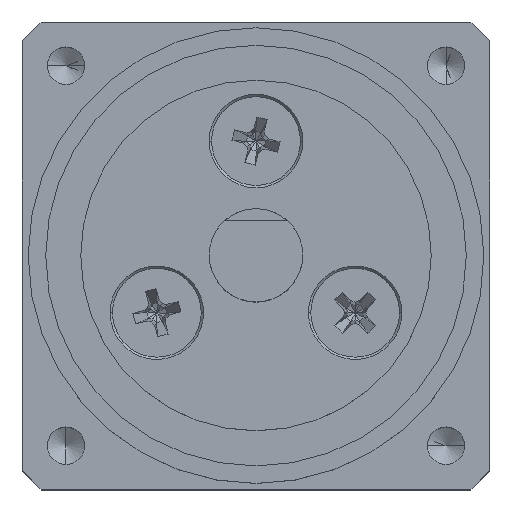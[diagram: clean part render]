
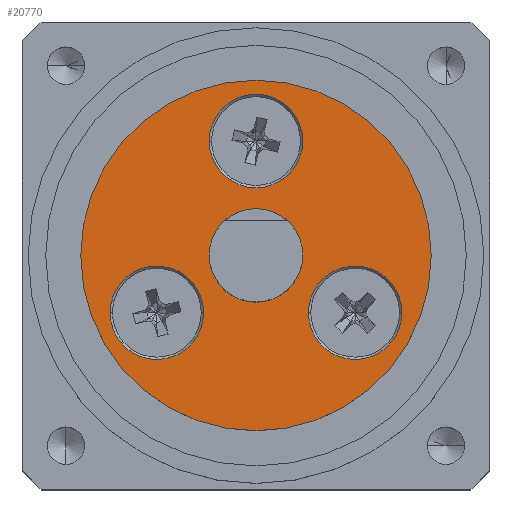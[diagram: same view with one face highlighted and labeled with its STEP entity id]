
A CAD part, top view. The second image highlights one B-rep face of the part: STEP entity #20770.
In plain terms, the highlighted planar face has unit normal (0, 0, 1).
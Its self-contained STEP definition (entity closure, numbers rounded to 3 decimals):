
#248 = CIRCLE ( 'NONE', #24064, 2. ) ;
#420 = AXIS2_PLACEMENT_3D ( 'NONE', #5777, #7708, #21127 ) ;
#792 = DIRECTION ( 'NONE',  ( 0., 0., 1. ) ) ;
#890 = EDGE_CURVE ( 'NONE', #14200, #16342, #248, .T. ) ;
#1429 = FACE_BOUND ( 'NONE', #13484, .T. ) ;
#1501 = CIRCLE ( 'NONE', #8747, 2. ) ;
#1538 = ORIENTED_EDGE ( 'NONE', *, *, #5928, .F. ) ;
#1669 = EDGE_CURVE ( 'NONE', #17465, #4917, #9805, .T. ) ;
#1677 = DIRECTION ( 'NONE',  ( 1., 0., 0. ) ) ;
#1917 = CIRCLE ( 'NONE', #16058, 2. ) ;
#1998 = AXIS2_PLACEMENT_3D ( 'NONE', #17081, #5594, #18995 ) ;
#2005 = FACE_BOUND ( 'NONE', #8726, .T. ) ;
#2164 = CARTESIAN_POINT ( 'NONE',  ( -6.244, -2.45, 1.5 ) ) ;
#2364 = VERTEX_POINT ( 'NONE', #18248 ) ;
#2411 = ORIENTED_EDGE ( 'NONE', *, *, #20112, .F. ) ;
#2787 = ORIENTED_EDGE ( 'NONE', *, *, #5732, .T. ) ;
#3219 = CIRCLE ( 'NONE', #18188, 7.5 ) ;
#3507 = CARTESIAN_POINT ( 'NONE',  ( -2.244, -2.45, 1.5 ) ) ;
#3827 = ORIENTED_EDGE ( 'NONE', *, *, #19441, .F. ) ;
#4023 = AXIS2_PLACEMENT_3D ( 'NONE', #20633, #9175, #22559 ) ;
#4172 = DIRECTION ( 'NONE',  ( 0., 0., 1. ) ) ;
#4630 = CARTESIAN_POINT ( 'NONE',  ( 2., 0., 1.5 ) ) ;
#4744 = ORIENTED_EDGE ( 'NONE', *, *, #23328, .F. ) ;
#4917 = VERTEX_POINT ( 'NONE', #4630 ) ;
#5594 = DIRECTION ( 'NONE',  ( 0., 0., 1. ) ) ;
#5732 = EDGE_CURVE ( 'NONE', #13167, #2364, #15084, .T. ) ;
#5777 = CARTESIAN_POINT ( 'NONE',  ( 0., 0., 1.5 ) ) ;
#5928 = EDGE_CURVE ( 'NONE', #4917, #17465, #15371, .T. ) ;
#6153 = CARTESIAN_POINT ( 'NONE',  ( 0., 4.9, 1.5 ) ) ;
#6511 = FACE_BOUND ( 'NONE', #23347, .T. ) ;
#6581 = CARTESIAN_POINT ( 'NONE',  ( 0., 0., 1.5 ) ) ;
#6989 = CARTESIAN_POINT ( 'NONE',  ( 4.244, -2.45, 1.5 ) ) ;
#7402 = AXIS2_PLACEMENT_3D ( 'NONE', #6989, #20410, #8937 ) ;
#7412 = AXIS2_PLACEMENT_3D ( 'NONE', #15692, #4172, #17607 ) ;
#7708 = DIRECTION ( 'NONE',  ( 0., 0., 1. ) ) ;
#7816 = CARTESIAN_POINT ( 'NONE',  ( 4.244, -2.45, 1.5 ) ) ;
#8090 = DIRECTION ( 'NONE',  ( 1., 0., 0. ) ) ;
#8393 = CARTESIAN_POINT ( 'NONE',  ( -4.244, -2.45, 1.5 ) ) ;
#8512 = EDGE_LOOP ( 'NONE', ( #4744, #9318 ) ) ;
#8522 = DIRECTION ( 'NONE',  ( 1., 0., 0. ) ) ;
#8726 = EDGE_LOOP ( 'NONE', ( #3827, #22854 ) ) ;
#8747 = AXIS2_PLACEMENT_3D ( 'NONE', #24656, #13169, #1677 ) ;
#8937 = DIRECTION ( 'NONE',  ( 1., 0., 0. ) ) ;
#9175 = DIRECTION ( 'NONE',  ( 0., 0., 1. ) ) ;
#9318 = ORIENTED_EDGE ( 'NONE', *, *, #9549, .F. ) ;
#9474 = VERTEX_POINT ( 'NONE', #12936 ) ;
#9549 = EDGE_CURVE ( 'NONE', #17484, #9474, #1501, .T. ) ;
#9768 = DIRECTION ( 'NONE',  ( 1., 0., 0. ) ) ;
#9805 = CIRCLE ( 'NONE', #18021, 2. ) ;
#10337 = DIRECTION ( 'NONE',  ( 1., 0., 0. ) ) ;
#11207 = ORIENTED_EDGE ( 'NONE', *, *, #20000, .T. ) ;
#11450 = AXIS2_PLACEMENT_3D ( 'NONE', #8393, #21797, #10337 ) ;
#11707 = CARTESIAN_POINT ( 'NONE',  ( 6.244, -2.45, 1.5 ) ) ;
#12274 = CARTESIAN_POINT ( 'NONE',  ( 0., 0., 1.5 ) ) ;
#12936 = CARTESIAN_POINT ( 'NONE',  ( 2., 4.9, 1.5 ) ) ;
#13167 = VERTEX_POINT ( 'NONE', #17161 ) ;
#13169 = DIRECTION ( 'NONE',  ( 0., 0., 1. ) ) ;
#13484 = EDGE_LOOP ( 'NONE', ( #14560, #1538 ) ) ;
#14200 = VERTEX_POINT ( 'NONE', #23543 ) ;
#14201 = DIRECTION ( 'NONE',  ( 1., 0., 0. ) ) ;
#14560 = ORIENTED_EDGE ( 'NONE', *, *, #1669, .F. ) ;
#15084 = CIRCLE ( 'NONE', #4023, 7.5 ) ;
#15371 = CIRCLE ( 'NONE', #7412, 2. ) ;
#15692 = CARTESIAN_POINT ( 'NONE',  ( 0., 0., 1.5 ) ) ;
#16058 = AXIS2_PLACEMENT_3D ( 'NONE', #6153, #19585, #8090 ) ;
#16167 = CIRCLE ( 'NONE', #11450, 2. ) ;
#16342 = VERTEX_POINT ( 'NONE', #11707 ) ;
#16709 = VERTEX_POINT ( 'NONE', #3507 ) ;
#17081 = CARTESIAN_POINT ( 'NONE',  ( -4.244, -2.45, 1.5 ) ) ;
#17089 = EDGE_LOOP ( 'NONE', ( #11207, #2787 ) ) ;
#17161 = CARTESIAN_POINT ( 'NONE',  ( 7.5, 0., 1.5 ) ) ;
#17319 = FACE_BOUND ( 'NONE', #8512, .T. ) ;
#17465 = VERTEX_POINT ( 'NONE', #24114 ) ;
#17484 = VERTEX_POINT ( 'NONE', #24206 ) ;
#17551 = ORIENTED_EDGE ( 'NONE', *, *, #890, .F. ) ;
#17587 = CIRCLE ( 'NONE', #1998, 2. ) ;
#17607 = DIRECTION ( 'NONE',  ( 1., 0., 0. ) ) ;
#18021 = AXIS2_PLACEMENT_3D ( 'NONE', #12274, #792, #14201 ) ;
#18188 = AXIS2_PLACEMENT_3D ( 'NONE', #6581, #19998, #8522 ) ;
#18248 = CARTESIAN_POINT ( 'NONE',  ( -7.5, 0., 1.5 ) ) ;
#18602 = VERTEX_POINT ( 'NONE', #2164 ) ;
#18995 = DIRECTION ( 'NONE',  ( 1., 0., 0. ) ) ;
#19441 = EDGE_CURVE ( 'NONE', #16709, #18602, #16167, .T. ) ;
#19585 = DIRECTION ( 'NONE',  ( 0., 0., 1. ) ) ;
#19998 = DIRECTION ( 'NONE',  ( 0., 0., 1. ) ) ;
#20000 = EDGE_CURVE ( 'NONE', #2364, #13167, #3219, .T. ) ;
#20112 = EDGE_CURVE ( 'NONE', #16342, #14200, #21229, .T. ) ;
#20410 = DIRECTION ( 'NONE',  ( 0., 0., 1. ) ) ;
#20622 = PLANE ( 'NONE',  #420 ) ;
#20633 = CARTESIAN_POINT ( 'NONE',  ( 0., 0., 1.5 ) ) ;
#20770 = ADVANCED_FACE ( 'NONE', ( #2005, #6511, #17319, #1429, #21207 ), #20622, .T. ) ;
#21127 = DIRECTION ( 'NONE',  ( 1., 0., 0. ) ) ;
#21207 = FACE_OUTER_BOUND ( 'NONE', #17089, .T. ) ;
#21224 = DIRECTION ( 'NONE',  ( 0., 0., 1. ) ) ;
#21229 = CIRCLE ( 'NONE', #7402, 2. ) ;
#21241 = EDGE_CURVE ( 'NONE', #18602, #16709, #17587, .T. ) ;
#21797 = DIRECTION ( 'NONE',  ( 0., 0., 1. ) ) ;
#22559 = DIRECTION ( 'NONE',  ( 1., 0., 0. ) ) ;
#22854 = ORIENTED_EDGE ( 'NONE', *, *, #21241, .F. ) ;
#23328 = EDGE_CURVE ( 'NONE', #9474, #17484, #1917, .T. ) ;
#23347 = EDGE_LOOP ( 'NONE', ( #2411, #17551 ) ) ;
#23543 = CARTESIAN_POINT ( 'NONE',  ( 2.244, -2.45, 1.5 ) ) ;
#24064 = AXIS2_PLACEMENT_3D ( 'NONE', #7816, #21224, #9768 ) ;
#24114 = CARTESIAN_POINT ( 'NONE',  ( -2., 0., 1.5 ) ) ;
#24206 = CARTESIAN_POINT ( 'NONE',  ( -2., 4.9, 1.5 ) ) ;
#24656 = CARTESIAN_POINT ( 'NONE',  ( 0., 4.9, 1.5 ) ) ;
